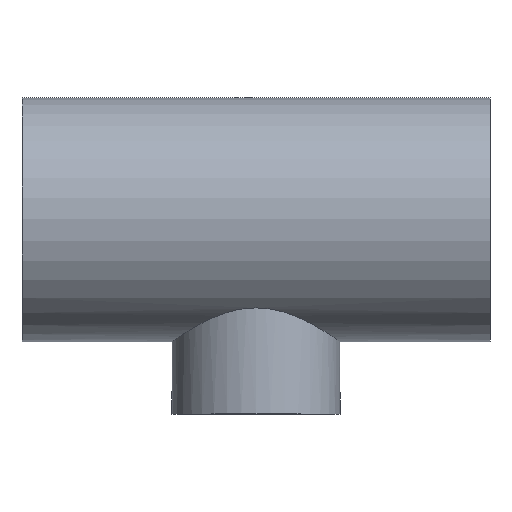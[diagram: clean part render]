
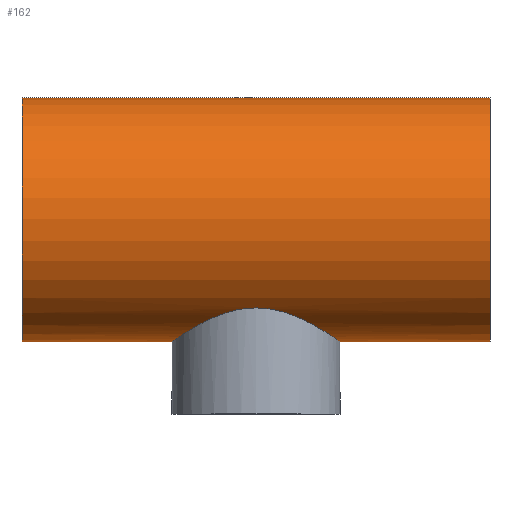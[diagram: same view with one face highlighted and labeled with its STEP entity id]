
A CAD part, top view. The second image highlights one B-rep face of the part: STEP entity #162.
In plain terms, the highlighted cylindrical face has radius 37 mm (diameter 74 mm), a full revolution.
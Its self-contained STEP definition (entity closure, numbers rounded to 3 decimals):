
#16=B_SPLINE_CURVE_WITH_KNOTS('',3,(#336,#337,#338,#339,#340,#341,#342,
#343,#344,#345,#346,#347,#348,#349,#350,#351,#352,#353,#354,#355,#356,#357,
#358,#359,#360,#361,#362,#363,#364,#365,#366,#367,#368,#369,#370,#371,#372,
#373,#374,#375,#376,#377,#378,#379,#380,#381,#382,#383,#384,#385,#386,#387,
#388,#389,#390,#391,#392,#393,#394,#395,#396,#397,#398,#399,#400,#401),
 .UNSPECIFIED.,.T.,.F.,(4,2,2,2,2,2,2,2,2,2,2,2,2,2,2,2,2,2,2,2,2,2,2,2,
2,2,2,2,2,2,2,2,4),(0.,0.505,1.011,1.516,
2.022,2.521,3.02,3.518,4.017,
4.516,5.015,5.514,6.013,6.518,
7.024,7.529,8.035,8.54,9.046,
9.551,10.056,10.555,11.054,11.553,
12.052,12.551,13.05,13.548,14.047,
14.553,15.058,15.564,16.069),
 .UNSPECIFIED.);
#32=FACE_BOUND('',#69,.T.);
#33=FACE_BOUND('',#70,.T.);
#46=FACE_OUTER_BOUND('',#68,.T.);
#68=EDGE_LOOP('',(#136));
#69=EDGE_LOOP('',(#137));
#70=EDGE_LOOP('',(#138));
#88=CIRCLE('',#187,37.);
#89=CIRCLE('',#188,37.);
#101=VERTEX_POINT('',#333);
#102=VERTEX_POINT('',#335);
#103=VERTEX_POINT('',#402);
#115=EDGE_CURVE('',#101,#101,#88,.T.);
#116=EDGE_CURVE('',#102,#102,#16,.T.);
#117=EDGE_CURVE('',#103,#103,#89,.T.);
#136=ORIENTED_EDGE('',*,*,#115,.F.);
#137=ORIENTED_EDGE('',*,*,#116,.T.);
#138=ORIENTED_EDGE('',*,*,#117,.F.);
#152=CYLINDRICAL_SURFACE('',#186,37.);
#162=ADVANCED_FACE('',(#46,#32,#33),#152,.T.);
#186=AXIS2_PLACEMENT_3D('',#332,#230,#231);
#187=AXIS2_PLACEMENT_3D('',#334,#232,#233);
#188=AXIS2_PLACEMENT_3D('',#403,#234,#235);
#230=DIRECTION('center_axis',(1.,0.,0.));
#231=DIRECTION('ref_axis',(0.,-1.,0.));
#232=DIRECTION('center_axis',(-1.,0.,0.));
#233=DIRECTION('ref_axis',(0.,-1.,0.));
#234=DIRECTION('center_axis',(1.,0.,0.));
#235=DIRECTION('ref_axis',(0.,-1.,0.));
#332=CARTESIAN_POINT('Origin',(0.,0.,0.));
#333=CARTESIAN_POINT('',(-71.,37.,0.));
#334=CARTESIAN_POINT('Origin',(-71.,0.,0.));
#335=CARTESIAN_POINT('',(0.,-26.81,25.5));
#336=CARTESIAN_POINT('Ctrl Pts',(0.,-26.81,25.5));
#337=CARTESIAN_POINT('Ctrl Pts',(1.685,-26.81,25.5));
#338=CARTESIAN_POINT('Ctrl Pts',(3.392,-26.973,25.331));
#339=CARTESIAN_POINT('Ctrl Pts',(6.734,-27.593,24.654));
#340=CARTESIAN_POINT('Ctrl Pts',(8.369,-28.048,24.147));
#341=CARTESIAN_POINT('Ctrl Pts',(11.476,-29.126,22.834));
#342=CARTESIAN_POINT('Ctrl Pts',(12.951,-29.75,22.028));
#343=CARTESIAN_POINT('Ctrl Pts',(15.675,-31.032,20.181));
#344=CARTESIAN_POINT('Ctrl Pts',(16.923,-31.691,19.139));
#345=CARTESIAN_POINT('Ctrl Pts',(19.125,-32.919,16.938));
#346=CARTESIAN_POINT('Ctrl Pts',(20.164,-33.538,15.697));
#347=CARTESIAN_POINT('Ctrl Pts',(22.015,-34.683,12.973));
#348=CARTESIAN_POINT('Ctrl Pts',(22.828,-35.209,11.489));
#349=CARTESIAN_POINT('Ctrl Pts',(24.15,-36.08,8.361));
#350=CARTESIAN_POINT('Ctrl Pts',(24.66,-36.425,6.713));
#351=CARTESIAN_POINT('Ctrl Pts',(25.335,-36.885,3.364));
#352=CARTESIAN_POINT('Ctrl Pts',(25.5,-37.,1.663));
#353=CARTESIAN_POINT('Ctrl Pts',(25.5,-37.,-1.663));
#354=CARTESIAN_POINT('Ctrl Pts',(25.335,-36.885,-3.364));
#355=CARTESIAN_POINT('Ctrl Pts',(24.66,-36.425,-6.713));
#356=CARTESIAN_POINT('Ctrl Pts',(24.15,-36.08,-8.361));
#357=CARTESIAN_POINT('Ctrl Pts',(22.828,-35.209,-11.489));
#358=CARTESIAN_POINT('Ctrl Pts',(22.015,-34.683,-12.973));
#359=CARTESIAN_POINT('Ctrl Pts',(20.164,-33.538,-15.697));
#360=CARTESIAN_POINT('Ctrl Pts',(19.125,-32.919,-16.938));
#361=CARTESIAN_POINT('Ctrl Pts',(16.923,-31.691,-19.139));
#362=CARTESIAN_POINT('Ctrl Pts',(15.675,-31.032,-20.181));
#363=CARTESIAN_POINT('Ctrl Pts',(12.951,-29.75,-22.028));
#364=CARTESIAN_POINT('Ctrl Pts',(11.476,-29.126,-22.834));
#365=CARTESIAN_POINT('Ctrl Pts',(8.369,-28.048,-24.147));
#366=CARTESIAN_POINT('Ctrl Pts',(6.734,-27.593,-24.654));
#367=CARTESIAN_POINT('Ctrl Pts',(3.392,-26.973,-25.331));
#368=CARTESIAN_POINT('Ctrl Pts',(1.685,-26.81,-25.5));
#369=CARTESIAN_POINT('Ctrl Pts',(-1.685,-26.81,-25.5));
#370=CARTESIAN_POINT('Ctrl Pts',(-3.392,-26.973,-25.331));
#371=CARTESIAN_POINT('Ctrl Pts',(-6.734,-27.593,-24.654));
#372=CARTESIAN_POINT('Ctrl Pts',(-8.369,-28.048,-24.147));
#373=CARTESIAN_POINT('Ctrl Pts',(-11.476,-29.126,-22.834));
#374=CARTESIAN_POINT('Ctrl Pts',(-12.951,-29.75,-22.028));
#375=CARTESIAN_POINT('Ctrl Pts',(-15.675,-31.032,-20.181));
#376=CARTESIAN_POINT('Ctrl Pts',(-16.923,-31.691,-19.139));
#377=CARTESIAN_POINT('Ctrl Pts',(-19.125,-32.919,-16.938));
#378=CARTESIAN_POINT('Ctrl Pts',(-20.164,-33.538,-15.697));
#379=CARTESIAN_POINT('Ctrl Pts',(-22.015,-34.683,-12.973));
#380=CARTESIAN_POINT('Ctrl Pts',(-22.828,-35.209,-11.489));
#381=CARTESIAN_POINT('Ctrl Pts',(-24.15,-36.08,-8.361));
#382=CARTESIAN_POINT('Ctrl Pts',(-24.66,-36.425,-6.713));
#383=CARTESIAN_POINT('Ctrl Pts',(-25.335,-36.885,-3.364));
#384=CARTESIAN_POINT('Ctrl Pts',(-25.5,-37.,-1.663));
#385=CARTESIAN_POINT('Ctrl Pts',(-25.5,-37.,1.663));
#386=CARTESIAN_POINT('Ctrl Pts',(-25.335,-36.885,3.364));
#387=CARTESIAN_POINT('Ctrl Pts',(-24.66,-36.425,6.713));
#388=CARTESIAN_POINT('Ctrl Pts',(-24.15,-36.08,8.361));
#389=CARTESIAN_POINT('Ctrl Pts',(-22.828,-35.209,11.489));
#390=CARTESIAN_POINT('Ctrl Pts',(-22.015,-34.683,12.973));
#391=CARTESIAN_POINT('Ctrl Pts',(-20.164,-33.538,15.697));
#392=CARTESIAN_POINT('Ctrl Pts',(-19.125,-32.919,16.938));
#393=CARTESIAN_POINT('Ctrl Pts',(-16.923,-31.691,19.139));
#394=CARTESIAN_POINT('Ctrl Pts',(-15.675,-31.032,20.181));
#395=CARTESIAN_POINT('Ctrl Pts',(-12.951,-29.75,22.028));
#396=CARTESIAN_POINT('Ctrl Pts',(-11.476,-29.126,22.834));
#397=CARTESIAN_POINT('Ctrl Pts',(-8.369,-28.048,24.147));
#398=CARTESIAN_POINT('Ctrl Pts',(-6.734,-27.593,24.654));
#399=CARTESIAN_POINT('Ctrl Pts',(-3.392,-26.973,25.331));
#400=CARTESIAN_POINT('Ctrl Pts',(-1.685,-26.81,25.5));
#401=CARTESIAN_POINT('Ctrl Pts',(0.,-26.81,
25.5));
#402=CARTESIAN_POINT('',(71.,37.,0.));
#403=CARTESIAN_POINT('Origin',(71.,0.,0.));
